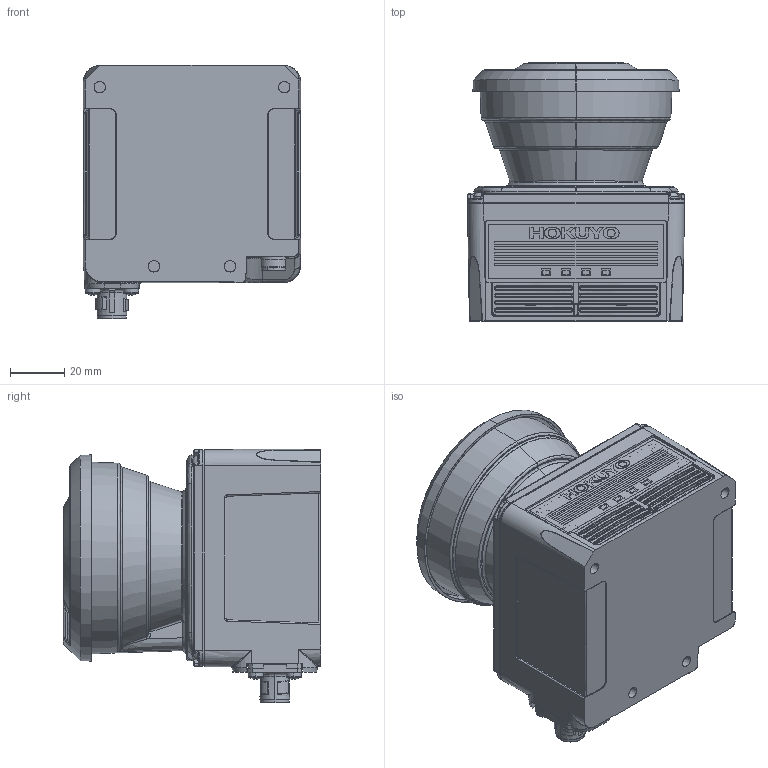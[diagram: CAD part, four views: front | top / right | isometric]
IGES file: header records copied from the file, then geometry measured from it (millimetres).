
Start section: SolidWorks IGES file using analytic representation for surfaces
Global section: file name: C:\Users\Administrator\Desktop\URM(IGES).IGS; native system: SolidWorks 2018; preprocessor: SolidWorks 2018; author: Administrator; date: 190508.172245; units: millimetre
Bounding box: 80 x 95 x 93.25 mm (x, y, z)
Surface area: 45968.8 mm2 (no closed solid volume)
Topology: 0 solids, 0 shells, 1833 faces, 19327 edges, 19298 vertices
Faces by surface type: bspline 1120, revolution 713
